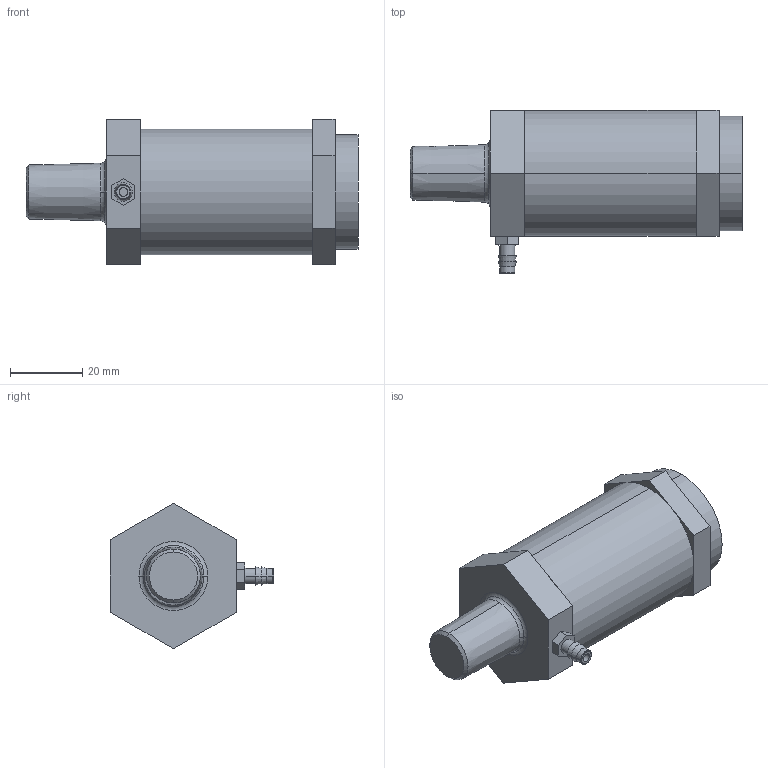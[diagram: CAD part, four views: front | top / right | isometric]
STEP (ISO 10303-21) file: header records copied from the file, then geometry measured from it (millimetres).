
FILE_DESCRIPTION((''),'2;1');
FILE_NAME('UC3_ASM','2017-08-24T',('jennifer.elliott'),('CenterLine (Windsor) Ltd - Automation Components Division'),'PRO/ENGINEER BY PARAMETRIC TECHNOLOGY CORPORATION, 2015030','PRO/ENGINEER BY PARAMETRIC TECHNOLOGY CORPORATION, 2015030','');
FILE_SCHEMA(('AUTOMOTIVE_DESIGN { 1 0 10303 214 1 1 1 1 }'));
Length unit declared in the file: inch
Products named in the file (6): PRT0054; PRT0055; PRT0056; PRT0057; PRT0058; UC3_ASM
Assembly tree (5 placements, depth 2):
  UC3_ASM
    PRT0054
    PRT0055
    PRT0056
    PRT0057
    PRT0058
Bounding box: 92.08 x 45.24 x 40.33 mm (x, y, z)
Volume: 71775.1 mm3; surface area: 16817.7 mm2
Topology: 5 solids, 5 shells, 58 faces, 123 edges, 79 vertices
Faces by surface type: plane 32, cylinder 10, torus 8, cone 8
Entity records: 1948 total; most frequent: DIRECTION 312, CARTESIAN_POINT 287, ORIENTED_EDGE 246, EDGE_CURVE 123, AXIS2_PLACEMENT_3D 120, VERTEX_POINT 79, VECTOR 72, LINE 72
